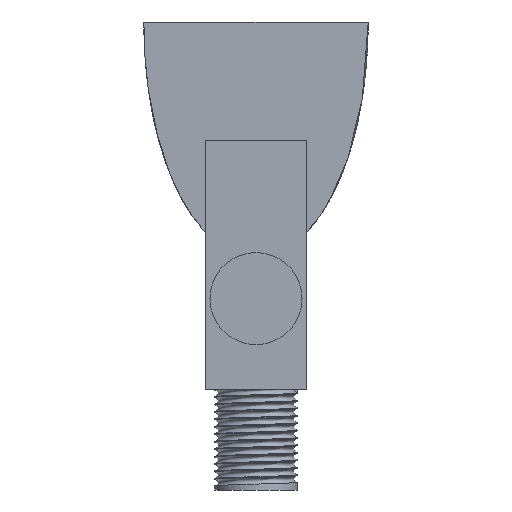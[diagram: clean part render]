
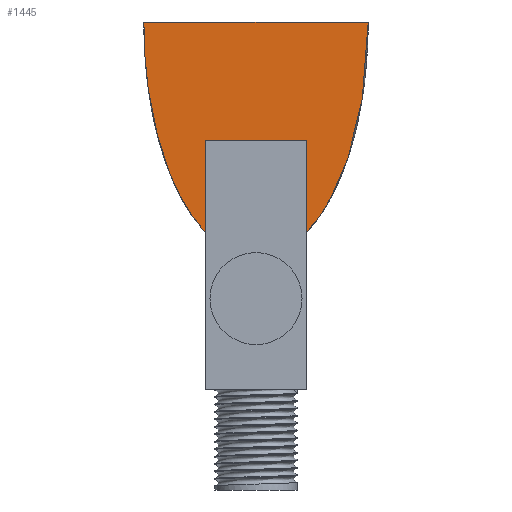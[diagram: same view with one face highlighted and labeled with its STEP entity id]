
A CAD part, front view. The second image highlights one B-rep face of the part: STEP entity #1445.
In plain terms, the highlighted planar face has unit normal (0, -1, 0).
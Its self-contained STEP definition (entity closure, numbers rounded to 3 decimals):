
#32 = CARTESIAN_POINT ( 'NONE',  ( 27.95, 0., 29.46 ) ) ;
#76 = CARTESIAN_POINT ( 'NONE',  ( 12.685, 0., 0. ) ) ;
#403 = EDGE_CURVE ( 'NONE', #422, #1161, #5441, .T. ) ;
#422 = VERTEX_POINT ( 'NONE', #5421 ) ;
#464 = FACE_OUTER_BOUND ( 'NONE', #6641, .T. ) ;
#498 = ORIENTED_EDGE ( 'NONE', *, *, #1383, .T. ) ;
#580 = CARTESIAN_POINT ( 'NONE',  ( -27.95, 0., 5.122 ) ) ;
#624 = DIRECTION ( 'NONE',  ( 1., 0., 0. ) ) ;
#630 = LINE ( 'NONE', #966, #4082 ) ;
#935 = EDGE_CURVE ( 'NONE', #1161, #2385, #3460, .T. ) ;
#966 = CARTESIAN_POINT ( 'NONE',  ( -12.685, 0., -13.286 ) ) ;
#1161 = VERTEX_POINT ( 'NONE', #4728 ) ;
#1383 = EDGE_CURVE ( 'NONE', #422, #3560, #630, .T. ) ;
#1445 = ADVANCED_FACE ( 'NONE', ( #464 ), #6436, .F. ) ;
#1643 = CARTESIAN_POINT ( 'NONE',  ( -12.685, 0., -22.907 ) ) ;
#1663 = CARTESIAN_POINT ( 'NONE',  ( -27.95, 0., 29.46 ) ) ;
#1704 = CARTESIAN_POINT ( 'NONE',  ( -21.343, 0., -13.582 ) ) ;
#1844 = CARTESIAN_POINT ( 'NONE',  ( 12.685, 0., -22.907 ) ) ;
#1873 = CARTESIAN_POINT ( 'NONE',  ( 12.685, 0., -13.286 ) ) ;
#1884 = LINE ( 'NONE', #2180, #2402 ) ;
#1946 = DIRECTION ( 'NONE',  ( 0., 0., 1. ) ) ;
#2180 = CARTESIAN_POINT ( 'NONE',  ( 12.485, 0., 0. ) ) ;
#2305 = CARTESIAN_POINT ( 'NONE',  ( 27.95, 0., 5.122 ) ) ;
#2346 = VERTEX_POINT ( 'NONE', #76 ) ;
#2385 = VERTEX_POINT ( 'NONE', #32 ) ;
#2402 = VECTOR ( 'NONE', #624, 1000. ) ;
#2591 = DIRECTION ( 'NONE',  ( 1., 0., 0. ) ) ;
#3082 = CARTESIAN_POINT ( 'NONE',  ( -27.95, 0., 29.46 ) ) ;
#3460 = LINE ( 'NONE', #3082, #3717 ) ;
#3478 = ORIENTED_EDGE ( 'NONE', *, *, #6689, .T. ) ;
#3560 = VERTEX_POINT ( 'NONE', #6428 ) ;
#3599 = B_SPLINE_CURVE_WITH_KNOTS ( 'NONE', 3,
 ( #3934, #2305, #4002, #1844 ),
 .UNSPECIFIED., .F., .F.,
 ( 4, 4 ),
 ( 0., 0.687 ),
 .UNSPECIFIED. ) ;
#3622 = VERTEX_POINT ( 'NONE', #5983 ) ;
#3708 = CARTESIAN_POINT ( 'NONE',  ( -19.206, 0., -13.286 ) ) ;
#3717 = VECTOR ( 'NONE', #2591, 1000. ) ;
#3934 = CARTESIAN_POINT ( 'NONE',  ( 27.95, 0., 29.46 ) ) ;
#4002 = CARTESIAN_POINT ( 'NONE',  ( 21.343, 0., -13.582 ) ) ;
#4082 = VECTOR ( 'NONE', #1946, 1000. ) ;
#4466 = EDGE_CURVE ( 'NONE', #2385, #3622, #3599, .T. ) ;
#4728 = CARTESIAN_POINT ( 'NONE',  ( -27.95, 0., 29.46 ) ) ;
#4797 = DIRECTION ( 'NONE',  ( 0., 1., 0. ) ) ;
#4808 = ORIENTED_EDGE ( 'NONE', *, *, #4466, .F. ) ;
#4896 = ORIENTED_EDGE ( 'NONE', *, *, #403, .F. ) ;
#5167 = VECTOR ( 'NONE', #5635, 1000. ) ;
#5317 = DIRECTION ( 'NONE',  ( 0., 0., 1. ) ) ;
#5374 = AXIS2_PLACEMENT_3D ( 'NONE', #3708, #4797, #5317 ) ;
#5421 = CARTESIAN_POINT ( 'NONE',  ( -12.685, 0., -22.907 ) ) ;
#5441 = B_SPLINE_CURVE_WITH_KNOTS ( 'NONE', 3,
 ( #1643, #1704, #580, #1663 ),
 .UNSPECIFIED., .F., .F.,
 ( 4, 4 ),
 ( 0.313, 1. ),
 .UNSPECIFIED. ) ;
#5635 = DIRECTION ( 'NONE',  ( 0., 0., -1. ) ) ;
#5832 = ORIENTED_EDGE ( 'NONE', *, *, #935, .F. ) ;
#5983 = CARTESIAN_POINT ( 'NONE',  ( 12.685, 0., -22.907 ) ) ;
#6168 = EDGE_CURVE ( 'NONE', #3560, #2346, #1884, .T. ) ;
#6428 = CARTESIAN_POINT ( 'NONE',  ( -12.685, 0., 0. ) ) ;
#6436 = PLANE ( 'NONE',  #5374 ) ;
#6586 = LINE ( 'NONE', #1873, #5167 ) ;
#6641 = EDGE_LOOP ( 'NONE', ( #6745, #3478, #4808, #5832, #4896, #498 ) ) ;
#6689 = EDGE_CURVE ( 'NONE', #2346, #3622, #6586, .T. ) ;
#6745 = ORIENTED_EDGE ( 'NONE', *, *, #6168, .T. ) ;
